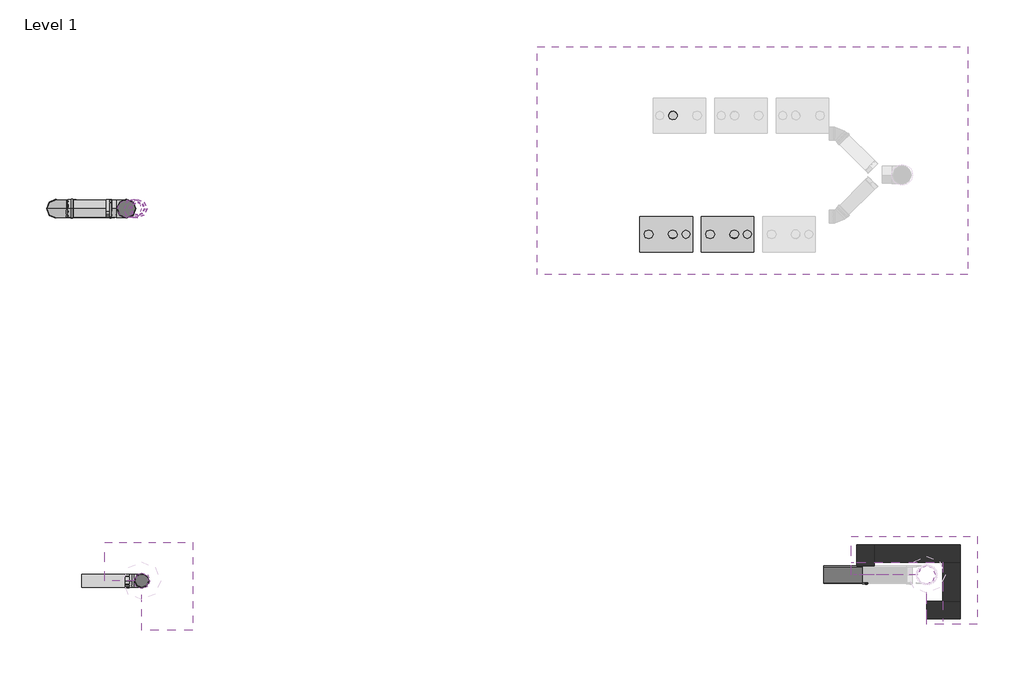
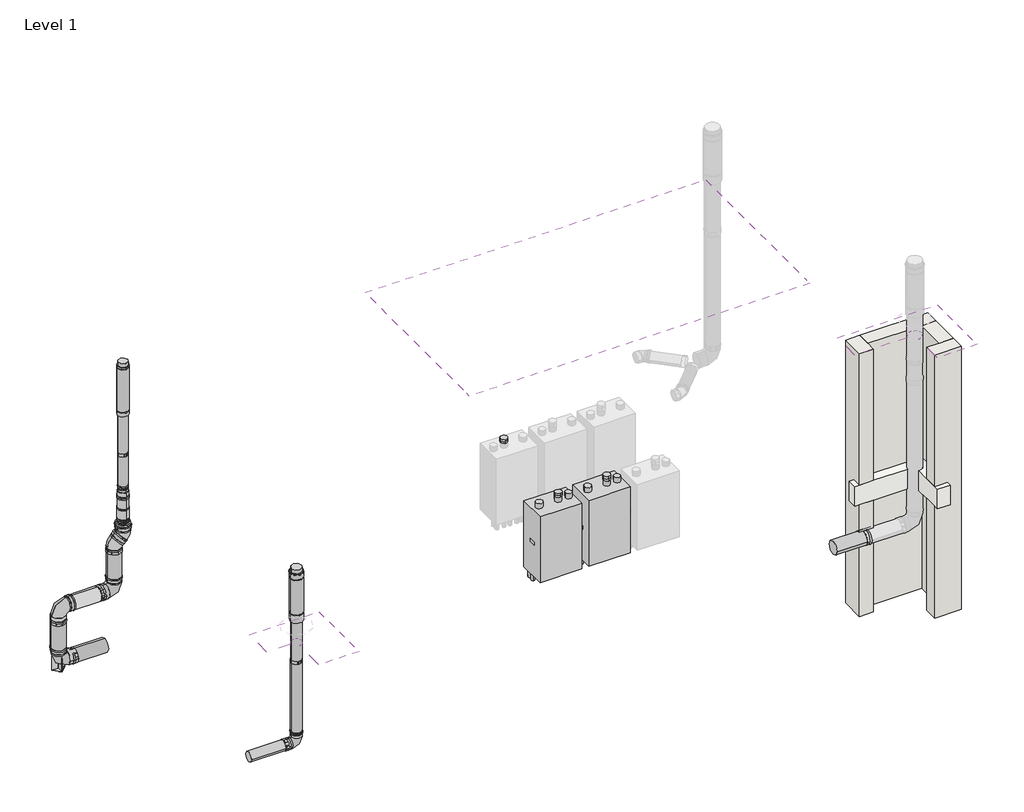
# One storey, part 1 of 2: 17 duct fittings, 4 walls, 3 duct segments, 3 roofs, 2 air terminals, 2 unitary equipment elements, 1 slab.
"""IFC4 building model written with IfcOpenShell, lengths in millimetres."""

from ifc_helpers import new_model, si_unit, point, frame, frame_2d, origin, place, context, project, spatial, polyline, circle_curve, ellipse_curve, trimmed, segment, composite_curve, outline, extrude, faceted_brep, transform, mapped, element, save
from ifc_brep_helpers import plane_surface, cylinder_surface, revolved_surface, advanced_brep
from components import air_terminal_94623e8e, air_terminal_eb749a6a, duct_fitting_fcce2ba4, duct_fitting_84fb14a7, duct_fitting_6345bc61, duct_fitting_8dfe7da2, duct_fitting_f8f29cd0, duct_fitting_bf31f75c, duct_fitting_4e1b977e, duct_fitting_345853f5, duct_fitting_ab07d6e0, duct_fitting_0e4c7d32, duct_fitting_86b3afc8, type_1_50a8d933

model = new_model("IFC4")

# Units and contexts
model_context = context("Model", 3, world=origin())
ifc_project = project(units=[si_unit("LENGTHUNIT", "METRE", prefix="MILLI")], contexts=[model_context])

# Site, building, storey
site = spatial("IfcSite", under=ifc_project)
building = spatial("IfcBuilding", under=site)
storey = spatial("IfcBuildingStorey", under=building, Name="Level 1", Elevation=0.0)

# Air terminals
placement = place(None, origin())
air_terminal_shape = air_terminal_94623e8e(model_context)
element("IfcAirTerminal", 1, ObjectType="NLRS_57_AIR_WPB_flue gas rooftop terminal_M&G : PP Black, ø130", at=placement, inside=storey, context=model_context, shape_type="MappedRepresentation", body=[
    mapped(air_terminal_shape, transform((-146.7598048, 6772.2888919, 3429.6005565), x_axis=(1.0, 0.0, 0.0), y_axis=(0.0, 1.0, 0.0), z_axis=(0.0, 0.0, 1.0))),
])
air_terminal_2_shape = air_terminal_eb749a6a(model_context)
element("IfcAirTerminal", 2, ObjectType="NLRS_57_AIR_WPB_flue gas rooftop terminal_M&G : PP Black, ø150", at=placement, inside=storey, context=model_context, shape_type="MappedRepresentation", body=[
    mapped(air_terminal_2_shape, transform((-100.4372498, 2531.918901, 2850.0), x_axis=(1.0, 0.0, 0.0), y_axis=(0.0, 1.0, 0.0), z_axis=(0.0, 0.0, 1.0))),
])

# Duct fittings
duct_fitting_shape = duct_fitting_fcce2ba4(model_context)
element("IfcDuctFitting", 3, ObjectType="NLRS_57_DUF_UN_Twinline Supportbend_M&G : ø130 - 150 - 200", at=placement, inside=storey, context=model_context, shape_type="MappedRepresentation", body=[
    mapped(duct_fitting_shape, transform((-1077.453239, 6772.2888919, 11.8802621), x_axis=(0.0, 0.0, -1.0), y_axis=(1.0, 0.0, 0.0), z_axis=(0.0, -1.0, 0.0))),
])
duct_fitting_2_shape = duct_fitting_84fb14a7(model_context)
element("IfcDuctFitting", 4, ObjectType="NLRS_57_DUF_UN_Twinline Reducer_M&G : ø080-100-150-200", at=placement, inside=storey, context=model_context, shape_type="MappedRepresentation", body=[
    mapped(duct_fitting_2_shape, transform((-146.7598048, 6772.2888919, 1699.5736962), x_axis=(0.0, 0.0, 1.0), y_axis=(-1.0, 0.0, 0.0), z_axis=(0.0, -1.0, 0.0))),
])
duct_fitting_3_shape = duct_fitting_6345bc61(model_context)
element("IfcDuctFitting", 5, ObjectType="NLRS_57_DUF_UN_Twinline Reducer_M&G : ø080-100-150-200", at=placement, inside=storey, context=model_context, shape_type="MappedRepresentation", body=[
    mapped(duct_fitting_3_shape, transform((-146.7598048, 6772.2888919, 2161.4104027), x_axis=(0.0, 0.0, 1.0), y_axis=(-1.0, 0.0, 0.0), z_axis=(0.0, -1.0, 0.0))),
])
duct_fitting_4_shape = duct_fitting_8dfe7da2(model_context)
element("IfcDuctFitting", 6, ObjectType="NLRS_57_DUF_UN_Twinline Extension_M&G : ø130-150-200", at=placement, inside=storey, context=model_context, shape_type="MappedRepresentation", body=[
    mapped(duct_fitting_4_shape, transform((-410.7643346, 6772.2888919, 0.0), x_axis=(-1.0, 0.0, 0.0), y_axis=(0.0, 0.0, -1.0), z_axis=(0.0, -1.0, 0.0))),
])
element("IfcDuctFitting", 7, ObjectType="NLRS_57_DUF_UN_Twinline Extension_M&G : ø130-150-200", at=placement, inside=storey, context=model_context, shape_type="MappedRepresentation", body=[
    mapped(duct_fitting_4_shape, transform((-1077.453239, 6772.2888919, 146.8802621), x_axis=(0.0, 0.0, 1.0), y_axis=(-1.0, 0.0, 0.0), z_axis=(0.0, -1.0, 0.0))),
])
element("IfcDuctFitting", 8, ObjectType="NLRS_57_DUF_UN_Twinline Extension_M&G : ø130-150-200", at=placement, inside=storey, context=model_context, shape_type="MappedRepresentation", body=[
    mapped(duct_fitting_4_shape, transform((-275.453239, 6772.2888919, 948.8802621), x_axis=(0.0, 0.0, 1.0), y_axis=(-1.0, 0.0, 0.0), z_axis=(0.0, -1.0, 0.0))),
])
element("IfcDuctFitting", 9, ObjectType="NLRS_57_DUF_UN_Twinline Extension_M&G : ø130-150-200", at=placement, inside=storey, context=model_context, shape_type="MappedRepresentation", body=[
    mapped(duct_fitting_4_shape, transform((-942.453239, 6772.2888919, 813.8802621), x_axis=(1.0, 0.0, 0.0), y_axis=(0.0, 0.0, -1.0), z_axis=(0.0, 1.0, 0.0))),
])
element("IfcDuctFitting", 10, ObjectType="NLRS_57_DUF_UN_Twinline Extension_M&G : ø130-150-200", at=placement, inside=storey, context=model_context, shape_type="MappedRepresentation", body=[
    mapped(duct_fitting_4_shape, transform((7666.8962129, 2600.9771745, 1178.3755805), x_axis=(1.0, 0.0, 0.0), y_axis=(0.0, 1.0, 0.0), z_axis=(0.0, 0.0, 1.0))),
])
duct_fitting_5_shape = duct_fitting_f8f29cd0(model_context)
element("IfcDuctFitting", 11, ObjectType="NLRS_57_DUF_UN_Twinline Extension_M&G : ø130-150-200", at=placement, inside=storey, context=model_context, shape_type="MappedRepresentation", body=[
    mapped(duct_fitting_5_shape, transform((-146.7598048, 6772.2888919, 2312.4104027), x_axis=(0.0, 0.0, 1.0), y_axis=(-1.0, 0.0, 0.0), z_axis=(0.0, -1.0, 0.0))),
])
duct_fitting_6_shape = duct_fitting_bf31f75c(model_context)
element("IfcDuctFitting", 12, ObjectType="NLRS_57_DUF_UN_Twinline Extension_M&G : ø130-150-200", at=placement, inside=storey, context=model_context, shape_type="MappedRepresentation", body=[
    mapped(duct_fitting_6_shape, transform((-783.4372498, 2531.918901, 1000.0370325), x_axis=(1.0, 0.0, 0.0), y_axis=(0.0, 1.0, 0.0), z_axis=(0.0, 0.0, 1.0))),
])
duct_fitting_7_shape = duct_fitting_4e1b977e(model_context)
element("IfcDuctFitting", 13, ObjectType="NLRS_57_DUF_UN_Twinline Extension_M&G : ø130-150-200", at=placement, inside=storey, context=model_context, shape_type="MappedRepresentation", body=[
    mapped(duct_fitting_7_shape, transform((-100.4372498, 2531.918901, 1126.0370325), x_axis=(0.0, 0.0, 1.0), y_axis=(-1.0, 0.0, 0.0), z_axis=(0.0, -1.0, 0.0))),
])
duct_fitting_8_shape = duct_fitting_345853f5(model_context)
element("IfcDuctFitting", 14, ObjectType="NLRS_57_DUF_UN_Twinline Bend_M&G : ø130 - 150 - 200", at=placement, inside=storey, context=model_context, shape_type="MappedRepresentation", body=[
    mapped(duct_fitting_8_shape, transform((-1077.453239, 6772.2888919, 813.8802621), x_axis=(0.0, 0.0, 1.0), y_axis=(1.0, 0.0, 0.0), z_axis=(0.0, 1.0, 0.0))),
])
element("IfcDuctFitting", 15, ObjectType="NLRS_57_DUF_UN_Twinline Bend_M&G : ø130 - 150 - 200", at=placement, inside=storey, context=model_context, shape_type="MappedRepresentation", body=[
    mapped(duct_fitting_8_shape, transform((-275.453239, 6772.2888919, 813.8802621), x_axis=(1.0, 0.0, 0.0), y_axis=(0.0, 0.0, 1.0), z_axis=(0.0, -1.0, 0.0))),
])
duct_fitting_9_shape = duct_fitting_ab07d6e0(model_context)
element("IfcDuctFitting", 16, ObjectType="NLRS_57_DUF_UN_Twinline Bend_M&G : ø130 - 150 - 200", at=placement, inside=storey, context=model_context, shape_type="MappedRepresentation", body=[
    mapped(duct_fitting_9_shape, transform((-275.453239, 6772.2888919, 1499.8802621), x_axis=(0.0, 0.0, 1.0), y_axis=(1.0, 0.0, 0.0), z_axis=(0.0, 1.0, 0.0))),
])
element("IfcDuctFitting", 17, ObjectType="NLRS_57_DUF_UN_Twinline Bend_M&G : ø130 - 150 - 200", at=placement, inside=storey, context=model_context, shape_type="MappedRepresentation", body=[
    mapped(duct_fitting_9_shape, transform((-146.7598048, 6772.2888919, 1628.5736962), x_axis=(0.707106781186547, 0.0, 0.707106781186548), y_axis=(-0.707106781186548, 0.0, 0.707106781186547), z_axis=(0.0, -1.0, 0.0))),
])
duct_fitting_10_shape = duct_fitting_0e4c7d32(model_context)
element("IfcDuctFitting", 18, ObjectType="NLRS_57_DUF_UN_Twinline Bend_M&G : ø130 - 150 - 200", at=placement, inside=storey, context=model_context, shape_type="MappedRepresentation", body=[
    mapped(duct_fitting_10_shape, transform((-100.4372498, 2531.918901, 1000.0370325), x_axis=(1.0, 0.0, 0.0), y_axis=(0.0, 0.0, 1.0), z_axis=(0.0, -1.0, 0.0))),
])
duct_fitting_11_shape = duct_fitting_86b3afc8(model_context)
element("IfcDuctFitting", 19, ObjectType="NLRS_57_DUF_UN_Twinline Adjuster_M&G : ø130-150", at=placement, inside=storey, context=model_context, shape_type="MappedRepresentation", body=[
    mapped(duct_fitting_11_shape, transform((-146.7598048, 6772.2888919, 1807.5736962), x_axis=(0.0, 0.0, 1.0), y_axis=(-1.0, 0.0, 0.0), z_axis=(0.0, -1.0, 0.0))),
])

# Duct segments
element("IfcDuctSegment", 20, ObjectType="Flex - Round", at=placement, inside=storey, context=model_context, shape_type="AdvancedBrep", body=[
    advanced_brep(
    [(5896.9145142, 6481.0379677, 225.0), (5946.690279, 6531.2611335, 224.9172281), (5996.913513, 6481.4854375, 225.0), (5947.1377482, 6431.2622717, 225.0827719), (5896.9142998, 6481.0858821, 253.9439014), (5946.6901007, 6531.3090481, 253.8611296), (5996.9132985, 6481.533388, 253.9439014), (5947.1374977, 6431.3101859, 254.0266733), (5896.9272395, 6481.2231826, 282.9109259), (5947.1505022, 6431.4479049, 283.1244732), (5996.926228, 6481.6705028, 282.8641168), (5946.7029653, 6531.4457805, 282.6505694)],
    [
        (0, 1, circle_curve(frame((5946.9140136, 6481.2617026, 225.0), z_axis=(7.407582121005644e-06, -0.0016554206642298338, -0.9999986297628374), x_axis=(-0.9999899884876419, -0.004474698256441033, 0.0)), 50.0)),
        (1, 2, circle_curve(frame((5946.9140136, 6481.2617026, 225.0), z_axis=(7.407582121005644e-06, -0.0016554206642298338, -0.9999986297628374), x_axis=(-0.9999899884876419, -0.004474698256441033, 0.0)), 50.0)),
        (2, 3, circle_curve(frame((5946.9140136, 6481.2617026, 225.0), z_axis=(7.407582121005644e-06, -0.0016554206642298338, -0.9999986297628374), x_axis=(-0.9999899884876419, -0.004474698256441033, 0.0)), 50.0)),
        (3, 0, circle_curve(frame((5946.9140136, 6481.2617026, 225.0), z_axis=(7.407582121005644e-06, -0.0016554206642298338, -0.9999986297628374), x_axis=(-0.9999899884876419, -0.004474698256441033, 0.0)), 50.0)),
        (0, 4),
        (4, 5, circle_curve(frame((5946.9137992, 6481.309617, 253.9439014), z_axis=(7.407582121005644e-06, -0.0016554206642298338, -0.9999986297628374), x_axis=(-0.9999899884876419, -0.004474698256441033, 0.0)), 50.0)),
        (5, 1),
        (5, 6, circle_curve(frame((5946.9137992, 6481.309617, 253.9439014), z_axis=(7.407582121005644e-06, -0.0016554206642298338, -0.9999986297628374), x_axis=(-0.9999899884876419, -0.004474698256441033, 0.0)), 50.0)),
        (6, 2),
        (6, 7, circle_curve(frame((5946.9137992, 6481.309617, 253.9439014), z_axis=(7.407582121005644e-06, -0.0016554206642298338, -0.9999986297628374), x_axis=(-0.9999899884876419, -0.004474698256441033, 0.0)), 50.0)),
        (7, 3),
        (7, 4, circle_curve(frame((5946.9137992, 6481.309617, 253.9439014), z_axis=(7.407582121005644e-06, -0.0016554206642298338, -0.9999986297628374), x_axis=(-0.9999899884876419, -0.004474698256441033, 0.0)), 50.0)),
        (8, 9, circle_curve(frame((5946.9267338, 6481.4468427, 282.8875213), z_axis=(0.00044688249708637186, 0.004741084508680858, 0.999988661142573), x_axis=(-0.9999898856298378, -0.0044732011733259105, 0.0004680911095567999)), 50.0)),
        (9, 10, circle_curve(frame((5946.9267338, 6481.4468427, 282.8875213), z_axis=(0.00044688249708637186, 0.004741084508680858, 0.999988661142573), x_axis=(-0.9999898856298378, -0.0044732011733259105, 0.0004680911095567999)), 50.0)),
        (10, 11, circle_curve(frame((5946.9267338, 6481.4468427, 282.8875213), z_axis=(0.00044688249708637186, 0.004741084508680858, 0.999988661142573), x_axis=(-0.9999898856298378, -0.0044732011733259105, 0.0004680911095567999)), 50.0)),
        (11, 8, circle_curve(frame((5946.9267338, 6481.4468427, 282.8875213), z_axis=(0.00044688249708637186, 0.004741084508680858, 0.999988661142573), x_axis=(-0.9999898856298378, -0.0044732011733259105, 0.0004680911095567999)), 50.0)),
        (4, 8),
        (11, 5),
        (10, 6),
        (9, 7),
    ],
    [
        plane_surface(frame((5946.9140136, 6431.2617711, 225.082771), z_axis=(7.407582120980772e-06, -0.001655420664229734, -0.9999986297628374), x_axis=(0.999999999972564, 1.226266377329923e-08, 7.407571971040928e-06))),
        cylinder_surface(frame((5946.9140136, 6481.2617026, 225.0), z_axis=(7.407582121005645e-06, -0.0016554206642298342, -0.9999986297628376), x_axis=(-0.9999899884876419, -0.004474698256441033, 0.0)), 50.0),
        plane_surface(frame((5946.9267338, 6431.4474046, 283.1245756), z_axis=(0.00044688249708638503, 0.004741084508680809, 0.999988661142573), x_axis=(0.999999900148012, -2.118707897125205e-06, -0.0004468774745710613))),
        cylinder_surface(frame((5946.9137992, 6481.309617, 253.9439014), z_axis=(-0.00044688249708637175, -0.004741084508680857, -0.9999886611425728), x_axis=(-0.9999898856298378, -0.0044732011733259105, 0.0004680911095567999)), 50.0),
    ],
    [
        (0, [[1, 2, 3, 4]]),
        (1, [[-1, 5, 6, 7]]),
        (1, [[-2, -7, 8, 9]]),
        (1, [[-3, -9, 10, 11]]),
        (1, [[-4, -11, 12, -5]]),
        (2, [[13, 14, 15, 16]]),
        (3, [[-6, 17, -16, 18]]),
        (3, [[-8, -18, -15, 19]]),
        (3, [[-10, -19, -14, 20]]),
        (3, [[-12, -20, -13, -17]]),
    ],
),
])
element("IfcDuctSegment", 21, ObjectType="Flex - Round", at=placement, inside=storey, context=model_context, shape_type="AdvancedBrep", body=[
    advanced_brep(
    [(6696.7602533, 6481.2617026, 224.9936438), (6646.7602602, 6431.2617292, 225.0515408), (6596.7602541, 6481.2617026, 225.0063562), (6646.7602471, 6531.261676, 224.9484592), (6696.7648257, 6481.2987794, 260.962058), (6646.7647977, 6431.298806, 261.019955), (6596.7648266, 6481.2987444, 260.9747704), (6646.7648546, 6531.2987529, 260.9168734), (6696.7857302, 6481.4467842, 296.9074077), (6646.7856775, 6531.4464191, 296.7306542), (6596.7857472, 6481.4469012, 296.9655492), (6646.7857999, 6431.4472663, 297.1423027)],
    [
        (0, 1, circle_curve(frame((6646.7602537, 6481.2617026, 225.0), z_axis=(-0.00012712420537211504, -0.001030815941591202, -0.9999994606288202), x_axis=(0.9999999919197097, 0.0, -0.0001271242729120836)), 50.0)),
        (1, 2, circle_curve(frame((6646.7602537, 6481.2617026, 225.0), z_axis=(-0.00012712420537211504, -0.001030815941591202, -0.9999994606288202), x_axis=(0.9999999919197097, 0.0, -0.0001271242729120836)), 50.0)),
        (2, 3, circle_curve(frame((6646.7602537, 6481.2617026, 225.0), z_axis=(-0.00012712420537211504, -0.001030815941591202, -0.9999994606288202), x_axis=(0.9999999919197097, 0.0, -0.0001271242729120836)), 50.0)),
        (3, 0, circle_curve(frame((6646.7602537, 6481.2617026, 225.0), z_axis=(-0.00012712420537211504, -0.001030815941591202, -0.9999994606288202), x_axis=(0.9999999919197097, 0.0, -0.0001271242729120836)), 50.0)),
        (0, 4),
        (4, 5, circle_curve(frame((6646.7648262, 6481.2987794, 260.9684142), z_axis=(-0.00012712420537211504, -0.001030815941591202, -0.9999994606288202), x_axis=(0.9999999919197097, 0.0, -0.0001271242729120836)), 50.0)),
        (5, 1),
        (5, 6, circle_curve(frame((6646.7648262, 6481.2987794, 260.9684142), z_axis=(-0.00012712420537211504, -0.001030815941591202, -0.9999994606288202), x_axis=(0.9999999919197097, 0.0, -0.0001271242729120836)), 50.0)),
        (6, 2),
        (6, 7, circle_curve(frame((6646.7648262, 6481.2987794, 260.9684142), z_axis=(-0.00012712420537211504, -0.001030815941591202, -0.9999994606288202), x_axis=(0.9999999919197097, 0.0, -0.0001271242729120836)), 50.0)),
        (7, 3),
        (7, 4, circle_curve(frame((6646.7648262, 6481.2987794, 260.9684142), z_axis=(-0.00012712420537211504, -0.001030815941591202, -0.9999994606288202), x_axis=(0.9999999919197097, 0.0, -0.0001271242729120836)), 50.0)),
        (8, 9, circle_curve(frame((6646.7857387, 6481.4468427, 296.9364785), z_axis=(0.0005814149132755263, 0.004116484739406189, 0.9999913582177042), x_axis=(0.9999998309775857, -1.169190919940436e-06, -0.0005814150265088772)), 50.0)),
        (9, 10, circle_curve(frame((6646.7857387, 6481.4468427, 296.9364785), z_axis=(0.0005814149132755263, 0.004116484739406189, 0.9999913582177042), x_axis=(0.9999998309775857, -1.169190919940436e-06, -0.0005814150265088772)), 50.0)),
        (10, 11, circle_curve(frame((6646.7857387, 6481.4468427, 296.9364785), z_axis=(0.0005814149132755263, 0.004116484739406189, 0.9999913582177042), x_axis=(0.9999998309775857, -1.169190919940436e-06, -0.0005814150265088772)), 50.0)),
        (11, 8, circle_curve(frame((6646.7857387, 6481.4468427, 296.9364785), z_axis=(0.0005814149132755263, 0.004116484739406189, 0.9999913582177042), x_axis=(0.9999998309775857, -1.169190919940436e-06, -0.0005814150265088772)), 50.0)),
        (4, 8),
        (11, 5),
        (10, 6),
        (9, 7),
    ],
    [
        plane_surface(frame((6646.7602537, 6431.2617292, 225.0515408), z_axis=(-0.00012712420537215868, -0.001030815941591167, -0.9999994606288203), x_axis=(0.9999999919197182, -1.3104165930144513e-07, -0.00012712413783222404))),
        cylinder_surface(frame((6646.7602537, 6481.2617026, 225.0), z_axis=(-0.00012712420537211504, -0.001030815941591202, -0.9999994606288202), x_axis=(0.9999999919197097, 0.0, -0.0001271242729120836)), 50.0),
        plane_surface(frame((6646.7857387, 6431.4472663, 297.1423027), z_axis=(0.0005814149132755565, 0.004116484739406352, 0.9999913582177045), x_axis=(0.9999998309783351, -2.393386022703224e-06, -0.0005814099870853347))),
        cylinder_surface(frame((6646.7648262, 6481.2987794, 260.9684142), z_axis=(-0.0005814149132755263, -0.004116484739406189, -0.9999913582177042), x_axis=(0.9999998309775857, -1.169190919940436e-06, -0.0005814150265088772)), 50.0),
    ],
    [
        (0, [[1, 2, 3, 4]]),
        (1, [[-1, 5, 6, 7]]),
        (1, [[-2, -7, 8, 9]]),
        (1, [[-3, -9, 10, 11]]),
        (1, [[-4, -11, 12, -5]]),
        (2, [[13, 14, 15, 16]]),
        (3, [[-6, 17, -16, 18]]),
        (3, [[-8, -18, -15, 19]]),
        (3, [[-10, -19, -14, 20]]),
        (3, [[-12, -20, -13, -17]]),
    ],
),
])
element("IfcDuctSegment", 22, ObjectType="Flex - Round", at=placement, inside=storey, context=model_context, shape_type="AdvancedBrep", body=[
    advanced_brep(
    [(5997.5827888, 7824.9323965, 225.0), (5938.2047401, 7786.5376634, 224.6970154), (5899.8089168, 7845.9150072, 225.0), (5959.1869655, 7884.3097403, 225.3029846), (5997.5461082, 7824.7614738, 253.8481743), (5938.1681943, 7786.3673692, 253.4391195), (5899.772227, 7845.7440418, 253.8553781), (5959.1501409, 7884.1381465, 254.2644329), (5997.4869363, 7824.4659376, 282.6957928), (5959.0907366, 7883.8414498, 283.2253214), (5899.7130403, 7845.4484318, 282.7102002), (5938.10924, 7786.0729196, 282.1806717)],
    [
        (0, 1, circle_curve(frame((5948.6958528, 7835.4237019, 225.0), z_axis=(0.0012714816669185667, 0.005924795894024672, -0.9999816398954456), x_axis=(0.9777387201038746, -0.20982610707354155, 0.0)), 50.0)),
        (1, 2, circle_curve(frame((5948.6958528, 7835.4237019, 225.0), z_axis=(0.0012714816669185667, 0.005924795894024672, -0.9999816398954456), x_axis=(0.9777387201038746, -0.20982610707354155, 0.0)), 50.0)),
        (2, 3, circle_curve(frame((5948.6958528, 7835.4237019, 225.0), z_axis=(0.0012714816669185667, 0.005924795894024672, -0.9999816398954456), x_axis=(0.9777387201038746, -0.20982610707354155, 0.0)), 50.0)),
        (3, 0, circle_curve(frame((5948.6958528, 7835.4237019, 225.0), z_axis=(0.0012714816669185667, 0.005924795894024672, -0.9999816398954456), x_axis=(0.9777387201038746, -0.20982610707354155, 0.0)), 50.0)),
        (0, 4),
        (4, 5, ellipse_curve(frame((5948.6591676, 7835.2527578, 253.8517762), z_axis=(0.0016612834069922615, 0.008084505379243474, -0.9999659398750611), x_axis=(-0.1776119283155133, -0.9840660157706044, -0.008251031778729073)), 50.0001204, 50.0)),
        (5, 1),
        (5, 6, ellipse_curve(frame((5948.6591676, 7835.2527578, 253.8517762), z_axis=(0.0016612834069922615, 0.008084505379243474, -0.9999659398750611), x_axis=(-0.1776119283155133, -0.9840660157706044, -0.008251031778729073)), 50.0001204, 50.0)),
        (6, 2),
        (6, 7, ellipse_curve(frame((5948.6591676, 7835.2527578, 253.8517762), z_axis=(0.0016612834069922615, 0.008084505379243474, -0.9999659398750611), x_axis=(-0.1776119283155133, -0.9840660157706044, -0.008251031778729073)), 50.0001204, 50.0)),
        (7, 3),
        (7, 4, ellipse_curve(frame((5948.6591676, 7835.2527578, 253.8517762), z_axis=(0.0016612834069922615, 0.008084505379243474, -0.9999659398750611), x_axis=(-0.1776119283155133, -0.9840660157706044, -0.008251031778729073)), 50.0001204, 50.0)),
        (8, 9, circle_curve(frame((5948.5999883, 7834.9571847, 282.7029965), z_axis=(-0.002051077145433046, -0.010244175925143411, 0.9999454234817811), x_axis=(0.9777389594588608, -0.209824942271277, -0.00014407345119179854)), 50.0)),
        (9, 10, circle_curve(frame((5948.5999883, 7834.9571847, 282.7029965), z_axis=(-0.002051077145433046, -0.010244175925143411, 0.9999454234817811), x_axis=(0.9777389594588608, -0.209824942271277, -0.00014407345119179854)), 50.0)),
        (10, 11, circle_curve(frame((5948.5999883, 7834.9571847, 282.7029965), z_axis=(-0.002051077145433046, -0.010244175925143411, 0.9999454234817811), x_axis=(0.9777389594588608, -0.209824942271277, -0.00014407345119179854)), 50.0)),
        (11, 8, circle_curve(frame((5948.5999883, 7834.9571847, 282.7029965), z_axis=(-0.002051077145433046, -0.010244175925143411, 0.9999454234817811), x_axis=(0.9777389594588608, -0.209824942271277, -0.00014407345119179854)), 50.0)),
        (4, 8),
        (11, 5),
        (10, 6),
        (9, 7),
    ],
    [
        plane_surface(frame((5948.6958528, 7785.4245794, 224.70376), z_axis=(0.0012714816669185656, 0.005924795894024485, -0.9999816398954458), x_axis=(0.9999991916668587, -7.533275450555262e-06, 0.0012714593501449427))),
        cylinder_surface(frame((5948.6958528, 7835.4237019, 225.0), z_axis=(0.001271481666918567, 0.005924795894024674, -0.9999816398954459), x_axis=(0.9777387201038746, -0.20982610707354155, 0.0)), 50.0),
        plane_surface(frame((5948.5999883, 7784.9598084, 282.1907866), z_axis=(-0.002051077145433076, -0.010244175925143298, 0.999945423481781), x_axis=(0.9999978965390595, -2.1011639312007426e-05, 0.0020509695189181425))),
        cylinder_surface(frame((5948.6591676, 7835.2527578, 253.8517762), z_axis=(0.002051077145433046, 0.010244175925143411, -0.9999454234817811), x_axis=(0.9777389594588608, -0.209824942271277, -0.00014407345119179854)), 50.0),
    ],
    [
        (0, [[1, 2, 3, 4]]),
        (1, [[-1, 5, 6, 7]]),
        (1, [[-2, -7, 8, 9]]),
        (1, [[-3, -9, 10, 11]]),
        (1, [[-4, -11, 12, -5]]),
        (2, [[13, 14, 15, 16]]),
        (3, [[-6, 17, -16, 18]]),
        (3, [[-8, -18, -15, 19]]),
        (3, [[-10, -19, -14, 20]]),
        (3, [[-12, -20, -13, -17]]),
    ],
),
])

# Roofs
element("IfcRoof", 23, ObjectType="Roof 1", at=placement, inside=storey, context=model_context, shape_type="SweptSolid", body=[
    extrude(outline(composite_curve([segment(polyline([(7976.592038, 3036.9029715), (9416.592038, 3036.9029715), (9416.592038, 2036.9029715), (8838.8962129, 2036.9029715), (8838.8962129, 2498.9771745)]), True, "CONTINUOUS"), segment(trimmed(circle_curve(frame_2d((8838.8962129, 2600.9771745)), 102.0), [point((8838.8962129, 2498.9771745))], [point((8736.8962129, 2600.9771745))], True, "CARTESIAN"), True, "CONTINUOUS"), segment(polyline([(8736.8962129, 2600.9771745), (7976.592038, 2600.9771745), (7976.592038, 3036.9029715)]), True, "CONTINUOUS")], self_intersect=False)), frame((0.0, 0.0, 4000.0), z_axis=(0.0, 0.0, 1.0), x_axis=(1.0, 0.0, 0.0)), (0.0, 0.0, 1.0), 250.0),
])
element("IfcRoof", 24, ObjectType="Roof 1", at=placement, inside=storey, context=model_context, shape_type="SweptSolid", body=[
    extrude(outline(composite_curve([segment(polyline([(-522.7414247, 2967.844698), (477.2585753, 2967.844698), (477.2585753, 1967.844698), (-100.4372498, 1967.844698), (-100.4372498, 2451.918901)]), True, "CONTINUOUS"), segment(trimmed(circle_curve(frame_2d((-100.4372498, 2531.918901)), 80.0), [point((-100.4372498, 2451.918901))], [point((-180.4372498, 2531.918901))], True, "CARTESIAN"), True, "CONTINUOUS"), segment(polyline([(-180.4372498, 2531.918901), (-522.7414247, 2531.918901), (-522.7414247, 2967.844698)]), True, "CONTINUOUS")], self_intersect=False)), frame((0.0, 0.0, 2500.0), z_axis=(0.0, 0.0, 1.0), x_axis=(1.0, 0.0, 0.0)), (0.0, 0.0, 1.0), 250.0),
])
element("IfcRoof", 25, ObjectType="Roof 1", at=placement, inside=storey, context=model_context, shape_type="AdvancedBrep", body=[
    advanced_brep(
    [(4404.7451942, 8620.9239733, 4274.8547277), (9304.7451942, 8620.9239733, 4274.8547277), (9304.7451942, 6164.3180824, 2554.7207645), (4404.7451942, 6164.3180824, 2554.7207645), (8659.664358, 7158.7845137, 3251.0536562), (8455.664358, 7158.7845137, 3251.0536562), (9304.7451942, 8620.9239733, 4580.0483749), (4404.7451942, 8620.9239733, 4580.0483749), (4404.7451942, 6020.9239733, 2759.5087755), (9304.7451942, 6020.9239733, 2759.5087755), (8455.664358, 7158.7845137, 3556.2473034), (8659.664358, 7158.7845137, 3556.2473034)],
    [
        (0, 1),
        (1, 2),
        (2, 3),
        (3, 0),
        (4, 5, ellipse_curve(frame((8557.664358, 7158.7845137, 3251.0536562), z_axis=(0.0, -0.5735764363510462, 0.8191520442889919), x_axis=(0.0, -0.8191520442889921, -0.5735764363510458)), 124.5190081, 102.0)),
        (5, 4, ellipse_curve(frame((8557.664358, 7158.7845137, 3251.0536562), z_axis=(0.0, -0.5735764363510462, 0.8191520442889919), x_axis=(0.0, -0.8191520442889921, -0.5735764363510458)), 124.5190081, 102.0)),
        (6, 7),
        (7, 8),
        (8, 9),
        (9, 6),
        (10, 11, ellipse_curve(frame((8557.664358, 7158.7845137, 3556.2473034), z_axis=(0.0, 0.5735764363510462, -0.8191520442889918), x_axis=(0.0, -0.8191520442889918, -0.573576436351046)), 124.5190081, 102.0)),
        (11, 10, ellipse_curve(frame((8557.664358, 7158.7845137, 3556.2473034), z_axis=(0.0, 0.5735764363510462, -0.8191520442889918), x_axis=(0.0, -0.8191520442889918, -0.573576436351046)), 124.5190081, 102.0)),
        (0, 7),
        (6, 1),
        (3, 8),
        (9, 2),
        (10, 5),
        (4, 11),
    ],
    [
        plane_surface(frame((4404.7451942, 6164.3180824, 2554.7207645), z_axis=(0.0, 0.5735764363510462, -0.8191520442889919), x_axis=(1.0, 0.0, 0.0))),
        plane_surface(frame((4404.7451942, 6020.9239733, 2759.5087755), z_axis=(0.0, -0.5735764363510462, 0.8191520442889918), x_axis=(1.0, 0.0, 0.0))),
        plane_surface(frame((9304.7451942, 8620.9239733, 0.0), z_axis=(0.0, 1.0, 0.0), x_axis=(-1.0, 0.0, 0.0))),
        plane_surface(frame((4404.7451942, 8620.9239733, 0.0), z_axis=(-1.0, 0.0, 0.0), x_axis=(0.0, -1.0, 0.0))),
        plane_surface(frame((9304.7451942, 6020.9239733, 0.0), z_axis=(1.0, 0.0, 0.0), x_axis=(0.0, 1.0, 0.0))),
        plane_surface(frame((4404.7451942, 6020.9239733, 2759.5087755), z_axis=(0.0, -0.8191520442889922, -0.5735764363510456), x_axis=(1.0, 0.0, 0.0))),
        revolved_surface(polyline([(8659.664358, 7158.7845137, 3179.632487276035), (8659.664358, 7158.7845137, 3627.668472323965)]), (8557.664358, 7158.7845137, 5592.7121801), (0.0, 0.0, -1.0)),
    ],
    [
        (0, [[1, 2, 3, 4], [5, 6]]),
        (1, [[7, 8, 9, 10], [11, 12]]),
        (2, [[-1, 13, -7, 14]]),
        (3, [[-4, 15, -8, -13]]),
        (4, [[-2, -14, -10, 16]]),
        (5, [[-3, -16, -9, -15]]),
        (6, [[17, -5, 18, -11]]),
        (6, [[-17, -12, -18, -6]]),
    ],
),
])

# Slab
element("IfcSlab", 26, ObjectType="Floor 1", at=placement, inside=storey, context=model_context, shape_type="AdvancedBrep", body=[
    advanced_brep(
    [(9021.8962129, 2740.9771745, 1700.0), (9021.8962129, 2300.9771745, 1700.0), (9021.8962129, 2100.9771745, 1700.0), (9021.8962129, 2036.9029715, 1700.0), (8838.8962129, 2036.9029715, 1700.0), (8838.8962129, 2100.9771745, 1700.0), (8838.8962129, 2300.9771745, 1700.0), (8838.8962129, 2498.9771745, 1700.0), (8736.8962129, 2600.9771745, 1700.0), (8241.8962129, 2600.9771745, 1700.0), (8041.8962129, 2600.9771745, 1700.0), (7976.592038, 2600.9771745, 1700.0), (7976.592038, 2740.9771745, 1700.0), (8041.8962129, 2740.9771745, 1700.0), (8241.8962129, 2740.9771745, 1700.0), (9021.8962129, 2740.9771745, 2000.0), (8241.8962129, 2740.9771745, 2000.0), (8041.8962129, 2740.9771745, 2000.0), (7976.592038, 2740.9771745, 2000.0), (7976.592038, 2600.9771745, 2000.0), (8041.8962129, 2600.9771745, 2000.0), (8241.8962129, 2600.9771745, 2000.0), (8736.8962129, 2600.9771745, 2000.0), (8838.8962129, 2498.9771745, 2000.0), (8838.8962129, 2300.9771745, 2000.0), (8838.8962129, 2100.9771745, 2000.0), (8838.8962129, 2036.9029715, 2000.0), (9021.8962129, 2036.9029715, 2000.0), (9021.8962129, 2100.9771745, 2000.0), (9021.8962129, 2300.9771745, 2000.0)],
    [
        (0, 1),
        (1, 2),
        (2, 3),
        (3, 4),
        (4, 5),
        (5, 6),
        (6, 7),
        (7, 8, circle_curve(frame((8838.8962129, 2600.9771745, 1700.0), z_axis=(0.0, 0.0, 1.0), x_axis=(1.0, 0.0, 0.0)), 102.0)),
        (8, 9),
        (9, 10),
        (10, 11),
        (11, 12),
        (12, 13),
        (13, 14),
        (14, 0),
        (15, 16),
        (16, 17),
        (17, 18),
        (18, 19),
        (19, 20),
        (20, 21),
        (21, 22),
        (22, 23, circle_curve(frame((8838.8962129, 2600.9771745, 2000.0), z_axis=(0.0, 0.0, -1.0), x_axis=(1.0, 0.0, 0.0)), 102.0)),
        (23, 24),
        (24, 25),
        (25, 26),
        (26, 27),
        (27, 28),
        (28, 29),
        (29, 15),
        (0, 15),
        (27, 3),
        (26, 4),
        (23, 7),
        (22, 8),
        (19, 11),
        (18, 12),
    ],
    [
        plane_surface(frame((9021.8962129, 3036.9029715, 1700.0), z_axis=(0.0, 0.0, -1.0), x_axis=(0.0, -1.0, 0.0))),
        plane_surface(frame((9021.8962129, 3036.9029715, 2000.0), z_axis=(0.0, 0.0, 1.0), x_axis=(0.0, 1.0, 0.0))),
        plane_surface(frame((9021.8962129, 2740.9771745, 1700.0), z_axis=(1.0, 0.0, 0.0), x_axis=(0.0, 0.0, 1.0))),
        plane_surface(frame((9021.8962129, 2036.9029715, 1700.0), z_axis=(0.0, -1.0, 0.0), x_axis=(0.0, 0.0, 1.0))),
        plane_surface(frame((8838.8962129, 2036.9029715, 1700.0), z_axis=(-1.0, 0.0, 0.0), x_axis=(0.0, 0.0, 1.0))),
        revolved_surface(polyline([(8940.8962129, 2600.9771745, 2000.0), (8940.8962129, 2600.9771745, 1700.0)]), (8838.8962129, 2600.9771745, 2000.0), (0.0, 0.0, 1.0)),
        plane_surface(frame((8736.8962129, 2600.9771745, 1700.0), z_axis=(0.0, -1.0, 0.0), x_axis=(0.0, 0.0, 1.0))),
        plane_surface(frame((7976.592038, 2600.9771745, 1700.0), z_axis=(-1.0, 0.0, 0.0), x_axis=(0.0, 0.0, 1.0))),
        plane_surface(frame((7976.592038, 2740.9771745, 1700.0), z_axis=(0.0, 1.0, 0.0), x_axis=(0.0, 0.0, 1.0))),
    ],
    [
        (0, [[1, 2, 3, 4, 5, 6, 7, 8, 9, 10, 11, 12, 13, 14, 15]]),
        (1, [[16, 17, 18, 19, 20, 21, 22, 23, 24, 25, 26, 27, 28, 29, 30]]),
        (2, [[-3, -2, -1, 31, -30, -29, -28, 32]]),
        (3, [[-4, -32, -27, 33]]),
        (4, [[-7, -6, -5, -33, -26, -25, -24, 34]]),
        (5, [[-8, -34, -23, 35]]),
        (6, [[-11, -10, -9, -35, -22, -21, -20, 36]]),
        (7, [[-12, -36, -19, 37]]),
        (8, [[-15, -14, -13, -37, -18, -17, -16, -31]]),
    ],
),
])

# Unitary equipment
type_1_shape = type_1_50a8d933(model_context)
element("IfcUnitaryEquipment", 27, ObjectType="NLRS_50_ME_UN_MC000066_Gasheating_UOB : Type 1", at=placement, inside=storey, context=model_context, shape_type="MappedRepresentation", body=[
    mapped(type_1_shape, transform((5871.9140136, 6681.2617026, 150.0), x_axis=(1.0, 0.0, 0.0), y_axis=(0.0, 1.0, 0.0), z_axis=(0.0, 0.0, 1.0))),
])
element("IfcUnitaryEquipment", 28, ObjectType="NLRS_50_ME_UN_MC000066_Gasheating_UOB : Type 1", at=placement, inside=storey, context=model_context, shape_type="MappedRepresentation", body=[
    mapped(type_1_shape, transform((6571.7602537, 6681.2617026, 150.0), x_axis=(1.0, 0.0, 0.0), y_axis=(0.0, 1.0, 0.0), z_axis=(0.0, 0.0, 1.0))),
])

# Walls
element("IfcWall", 29, ObjectType="Wall 1", at=placement, inside=storey, context=model_context, shape_type="AdvancedBrep", body=[
    advanced_brep(
    [(8241.8962129, 2600.9771745, 0.0), (8241.8962129, 2740.9771745, 0.0), (8241.8962129, 2940.9771745, 0.0), (8241.8962129, 2940.9771745, 4000.0), (8241.8962129, 2740.9771745, 4000.0), (8241.8962129, 2600.9771745, 4000.0), (8241.8962129, 2600.9771745, 2000.0), (8241.8962129, 2740.9771745, 2000.0), (8241.8962129, 2740.9771745, 1700.0), (8241.8962129, 2600.9771745, 1700.0), (8241.8962129, 2600.9771745, 1280.3755805), (8241.8962129, 2600.9771745, 1076.3755805), (8041.8962129, 2940.9771745, 0.0), (8041.8962129, 2600.9771745, 0.0), (8041.8962129, 2600.9771745, 1076.3755805), (8041.8962129, 2600.9771745, 1280.3755805), (8041.8962129, 2600.9771745, 1700.0), (8041.8962129, 2740.9771745, 1700.0), (8041.8962129, 2740.9771745, 2000.0), (8041.8962129, 2600.9771745, 2000.0), (8041.8962129, 2600.9771745, 4000.0), (8041.8962129, 2940.9771745, 4000.0)],
    [
        (0, 1),
        (1, 2),
        (2, 3),
        (3, 4),
        (4, 5),
        (5, 6),
        (6, 7),
        (7, 8),
        (8, 9),
        (9, 10),
        (10, 11, circle_curve(frame((8241.8962129, 2600.9771745, 1178.3755805), z_axis=(-1.0, 0.0, 0.0), x_axis=(0.0, -1.0, 0.0)), 102.0)),
        (11, 0),
        (12, 13),
        (13, 14),
        (14, 15, circle_curve(frame((8041.8962129, 2600.9771745, 1178.3755805), z_axis=(1.0, 0.0, 0.0), x_axis=(0.0, -1.0, 0.0)), 102.0)),
        (15, 16),
        (16, 17),
        (17, 18),
        (18, 19),
        (19, 20),
        (20, 21),
        (21, 12),
        (2, 12),
        (21, 3),
        (0, 13),
        (15, 10),
        (9, 16),
        (5, 20),
        (19, 6),
        (14, 11),
        (8, 17),
        (18, 7),
    ],
    [
        plane_surface(frame((8241.8962129, 2498.9771745, 1178.3755805), z_axis=(1.0, 0.0, 0.0), x_axis=(0.0, 0.0, 1.0))),
        plane_surface(frame((8041.8962129, 2498.9771745, 1178.3755805), z_axis=(-1.0, 0.0, 0.0), x_axis=(0.0, 0.0, -1.0))),
        plane_surface(frame((8141.8962129, 2940.9771745, 0.0), z_axis=(0.0, 1.0, 0.0), x_axis=(-1.0, 0.0, 0.0))),
        plane_surface(frame((8241.8962129, 2600.9771745, 0.0), z_axis=(0.0, 0.0, -1.0), x_axis=(-1.0, 0.0, 0.0))),
        plane_surface(frame((8241.8962129, 2600.9771745, 4000.0), z_axis=(0.0, -1.0, 0.0), x_axis=(-1.0, 0.0, 0.0))),
        revolved_surface(polyline([(8041.8962129, 2498.9771745, 1178.3755805), (8241.8962129, 2498.9771745, 1178.3755805)]), (8041.8962129, 2600.9771745, 1178.3755805), (-1.0, 0.0, 0.0)),
        plane_surface(frame((8241.8962129, 2600.9771745, 1076.3755805), z_axis=(0.0, -1.0, 0.0), x_axis=(-1.0, 0.0, 0.0))),
        plane_surface(frame((8416.592038, 3036.9029715, 4000.0), z_axis=(0.0, 0.0, 1.0), x_axis=(1.0, 0.0, 0.0))),
        plane_surface(frame((9021.8962129, 3036.9029715, 1700.0), z_axis=(0.0, 0.0, 1.0), x_axis=(0.0, -1.0, 0.0))),
        plane_surface(frame((9021.8962129, 3036.9029715, 2000.0), z_axis=(0.0, 0.0, -1.0), x_axis=(0.0, 1.0, 0.0))),
        plane_surface(frame((7976.592038, 2740.9771745, 1700.0), z_axis=(0.0, -1.0, 0.0), x_axis=(0.0, 0.0, 1.0))),
    ],
    [
        (0, [[1, 2, 3, 4, 5, 6, 7, 8, 9, 10, 11, 12]]),
        (1, [[13, 14, 15, 16, 17, 18, 19, 20, 21, 22]]),
        (2, [[-3, 23, -22, 24]]),
        (3, [[-2, -1, 25, -13, -23]]),
        (4, [[26, -10, 27, -16]]),
        (4, [[28, -20, 29, -6]]),
        (5, [[-11, -26, -15, 30]]),
        (6, [[-12, -30, -14, -25]]),
        (7, [[-5, -4, -24, -21, -28]]),
        (8, [[31, -17, -27, -9]]),
        (9, [[32, -7, -29, -19]]),
        (10, [[-31, -8, -32, -18]]),
    ],
),
])
element("IfcWall", 30, ObjectType="Wall 1", at=placement, inside=storey, context=model_context, shape_type="Brep", body=[
    faceted_brep([(8241.8962129, 2740.9771745, 0.0), (9021.8962129, 2740.9771745, 0.0), (9221.8962129, 2740.9771745, 0.0), (9221.8962129, 2740.9771745, 4000.0), (9021.8962129, 2740.9771745, 4000.0), (8241.8962129, 2740.9771745, 4000.0), (8241.8962129, 2940.9771745, 0.0), (8241.8962129, 2940.9771745, 4000.0), (9221.8962129, 2940.9771745, 4000.0), (9221.8962129, 2940.9771745, 0.0)], [[[0, 1, 2, 3, 4, 5]], [[6, 7, 8, 9]], [[2, 1, 0, 6, 9]], [[0, 5, 7, 6]], [[3, 2, 9, 8]], [[5, 4, 3, 8, 7]]]),
])
element("IfcWall", 31, ObjectType="Wall 1", at=placement, inside=storey, context=model_context, shape_type="Brep", body=[
    faceted_brep([(9021.8962129, 2740.9771745, 0.0), (9021.8962129, 2300.9771745, 0.0), (9021.8962129, 2300.9771745, 1700.0), (9021.8962129, 2300.9771745, 2000.0), (9021.8962129, 2300.9771745, 4000.0), (9021.8962129, 2740.9771745, 4000.0), (9021.8962129, 2740.9771745, 2000.0), (9021.8962129, 2740.9771745, 1700.0), (9221.8962129, 2740.9771745, 0.0), (9221.8962129, 2740.9771745, 4000.0), (9221.8962129, 2300.9771745, 4000.0), (9221.8962129, 2300.9771745, 0.0)], [[[0, 1, 2, 3, 4, 5, 6, 7]], [[8, 9, 10, 11]], [[1, 0, 8, 11]], [[0, 7, 6, 5, 9, 8]], [[4, 3, 2, 1, 11, 10]], [[5, 4, 10, 9]]]),
])
element("IfcWall", 32, ObjectType="Wall 1", at=placement, inside=storey, context=model_context, shape_type="Brep", body=[
    faceted_brep([(9221.8962129, 2300.9771745, 0.0), (9021.8962129, 2300.9771745, 0.0), (8838.8962129, 2300.9771745, 0.0), (8838.8962129, 2300.9771745, 1700.0), (9021.8962129, 2300.9771745, 1700.0), (9021.8962129, 2300.9771745, 2000.0), (8838.8962129, 2300.9771745, 2000.0), (8838.8962129, 2300.9771745, 4000.0), (9021.8962129, 2300.9771745, 4000.0), (9221.8962129, 2300.9771745, 4000.0), (8838.8962129, 2100.9771745, 0.0), (9221.8962129, 2100.9771745, 0.0), (9221.8962129, 2100.9771745, 4000.0), (8838.8962129, 2100.9771745, 4000.0), (8838.8962129, 2100.9771745, 2000.0), (9021.8962129, 2100.9771745, 2000.0), (9021.8962129, 2100.9771745, 1700.0), (8838.8962129, 2100.9771745, 1700.0)], [[[0, 1, 2, 3, 4, 5, 6, 7, 8, 9]], [[10, 11, 12, 13, 14, 15, 16, 17]], [[2, 1, 0, 11, 10]], [[2, 10, 17, 3]], [[13, 7, 6, 14]], [[0, 9, 12, 11]], [[9, 8, 7, 13, 12]], [[16, 4, 3, 17]], [[5, 15, 14, 6]], [[4, 16, 15, 5]]]),
])

save(model, "model.ifc")
